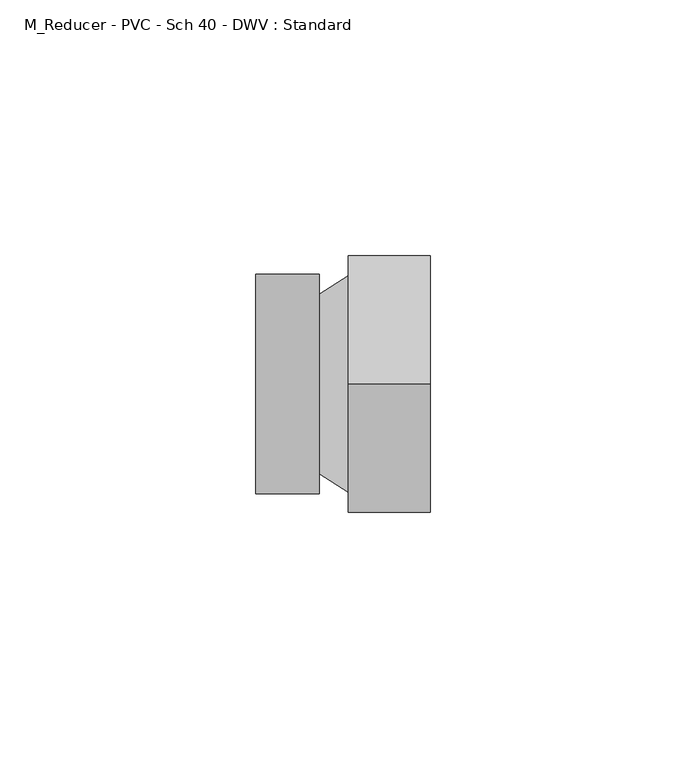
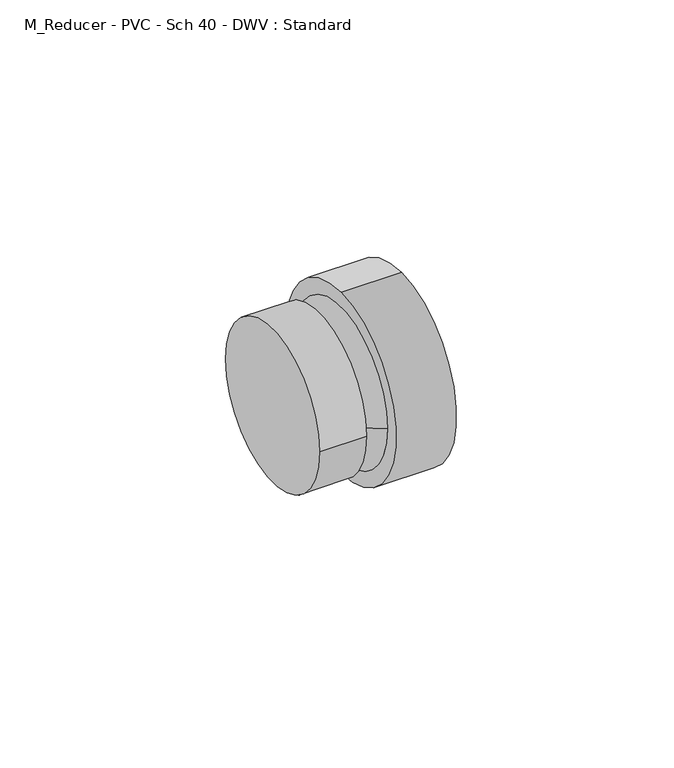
"""IFC4 building model written with IfcOpenShell, lengths in millimetres: pipe fitting geometry, M_Reducer - PVC - Sch 40 - DWV : Standard."""

import ifcopenshell
import ifcopenshell.guid

model = None  # the IFC model being written
_history = None  # IfcOwnerHistory: only IFC2X3 demands one
_inside = {}  # id of a spatial element -> (the spatial element, [elements in it])
_under = {}  # id of a project, library or spatial element -> (it, [spatial elements below it])
_declared = {}  # id of a project -> (the project, [libraries it declares])
_typed = {}  # id of a type object -> (the type object, [elements of that type])
_made_of = {}  # id of a material, layer set ... -> (it, [elements and type objects made of it])


def new_model(schema):
    """Start an empty IFC model of exactly this schema.

    Asked for "IFC4X3", IfcOpenShell would pick the latest addendum, in which some entities
    have other attributes; the version numbers below select the first issue.
    IFC2X3 requires an IfcOwnerHistory on every rooted entity: one is made here for all.
    """
    global model, _history
    if schema == "IFC4X3":
        model = ifcopenshell.file(schema_version=(4, 3, 0, 0))
    else:
        model = ifcopenshell.file(schema=schema)
    _inside.clear()
    _under.clear()
    _declared.clear()
    _typed.clear()
    _made_of.clear()
    _history = None
    if model.schema == "IFC2X3":
        org = make("IfcOrganization", Name="unknown")
        user = make(
            "IfcPersonAndOrganization",
            ThePerson=make("IfcPerson", FamilyName="unknown"),
            TheOrganization=org,
        )
        app = make(
            "IfcApplication",
            ApplicationDeveloper=org,
            Version="unknown",
            ApplicationFullName="unknown",
            ApplicationIdentifier="unknown",
        )
        _history = make(
            "IfcOwnerHistory",
            OwningUser=user,
            OwningApplication=app,
            ChangeAction="ADDED",
            CreationDate=0,
        )
    return model


def make(cls, **values):
    """One entity of the class cls with the attributes given. An attribute that is None is left unset."""
    return model.create_entity(
        cls, **{name: value for name, value in values.items() if value is not None}
    )


def rooted(cls, **values):
    """An entity with a GlobalId (a new one), such as an element, a storey or a relation."""
    return make(cls, GlobalId=ifcopenshell.guid.new(), OwnerHistory=_history, **values)


def si_unit(unit_type, name, prefix=None):
    """IfcSIUnit, for example si_unit("LENGTHUNIT", "METRE", prefix="MILLI")."""
    return make("IfcSIUnit", UnitType=unit_type, Prefix=prefix, Name=name)


def assignment(units):
    """IfcUnitAssignment: the units of a project."""
    return None if units is None else make("IfcUnitAssignment", Units=units)


def point(xyz):
    """IfcCartesianPoint."""
    return None if xyz is None else make("IfcCartesianPoint", Coordinates=xyz)


def direction(xyz):
    """IfcDirection."""
    return None if xyz is None else make("IfcDirection", DirectionRatios=xyz)


def frame(location, z_axis=None, x_axis=None):
    """IfcAxis2Placement3D, a coordinate frame: its origin and axes. An axis left out is left unset."""
    return make(
        "IfcAxis2Placement3D",
        Location=point(location),
        Axis=direction(z_axis),
        RefDirection=direction(x_axis),
    )


def origin():
    """The frame at (0, 0, 0) with its axes left unset."""
    return frame((0.0, 0.0, 0.0))


def place(relative_to, where):
    """IfcLocalPlacement: puts the frame where relative to a parent placement (None: the world)."""
    return make(
        "IfcLocalPlacement", PlacementRelTo=relative_to, RelativePlacement=where
    )


def context(
    kind, dimensions, precision=None, world=None, true_north=None, identifier=None
):
    """IfcGeometricRepresentationContext, for example the 3D "Model" context."""
    return make(
        "IfcGeometricRepresentationContext",
        ContextIdentifier=identifier,
        ContextType=kind,
        CoordinateSpaceDimension=dimensions,
        Precision=precision,
        WorldCoordinateSystem=world,
        TrueNorth=true_north,
    )


def project(units=None, contexts=None):
    """IfcProject with its units and contexts."""
    return rooted(
        "IfcProject",
        Name="project",
        RepresentationContexts=contexts,
        UnitsInContext=assignment(units),
    )


def spatial(cls, under=None, at=None, **own):
    """A site, building, storey or space (cls), placed at a placement, below another one or the project."""
    s = rooted(cls, ObjectPlacement=at, **own)
    if under is not None:
        _under.setdefault(under.id(), (under, []))[1].append(s)
    return s


def polyline(points):
    """IfcPolyline through the points."""
    return make("IfcPolyline", Points=[point(p) for p in points])


def circle_curve(where, radius):
    """IfcCircle in the frame where."""
    return make("IfcCircle", Position=where, Radius=radius)


def shape(context_of_items, identifier, shape_type, items):
    """IfcShapeRepresentation: the items that make up one representation, for example the "Body"."""
    return make(
        "IfcShapeRepresentation",
        ContextOfItems=context_of_items,
        RepresentationIdentifier=identifier,
        RepresentationType=shape_type,
        Items=items,
    )


def source(mapping_origin, context_of_items, identifier, shape_type, items):
    """IfcRepresentationMap: a shape defined once, which mapped items show again and again."""
    return make(
        "IfcRepresentationMap",
        MappingOrigin=mapping_origin,
        MappedRepresentation=shape(context_of_items, identifier, shape_type, items),
    )


def transform(
    local_origin,
    x_axis=None,
    y_axis=None,
    z_axis=None,
    scale=None,
    scale2=None,
    scale3=None,
    uniform=True,
):
    """IfcCartesianTransformationOperator3D, or its non-uniform kind. x_axis, y_axis, z_axis: its Axis1, 2, 3."""
    if uniform:
        return make(
            "IfcCartesianTransformationOperator3D",
            Axis1=direction(x_axis),
            Axis2=direction(y_axis),
            LocalOrigin=point(local_origin),
            Scale=scale,
            Axis3=direction(z_axis),
        )
    return make(
        "IfcCartesianTransformationOperator3DnonUniform",
        Axis1=direction(x_axis),
        Axis2=direction(y_axis),
        LocalOrigin=point(local_origin),
        Scale=scale,
        Axis3=direction(z_axis),
        Scale2=scale2,
        Scale3=scale3,
    )


def mapped(mapping_source, mapping_target):
    """IfcMappedItem: shows the shape of a source again, moved by a transform."""
    return make(
        "IfcMappedItem", MappingSource=mapping_source, MappingTarget=mapping_target
    )


def made_of(thing, what):
    """Note that an element or type object is made of a material, layer set ...; save() writes the relation."""
    if what is not None:
        _made_of.setdefault(what.id(), (what, []))[1].append(thing)
    return thing


def element(
    cls,
    number,
    at=None,
    inside=None,
    cuts=None,
    type_object=None,
    material=None,
    context=None,
    identifier="Body",
    shape_type=None,
    held_by="IfcProductDefinitionShape",
    body=None,
    shapes=None,
    **own,
):
    """One element of the class cls, such as IfcWall. Its Tag is "e" and its number.

    at: its placement. inside: the storey or other place that contains it. cuts: it is an
    opening in that element (IfcRelVoidsElement). A single representation is given by context,
    identifier, shape_type and body (its items); several are given by shapes. held_by: the class
    of the entity that holds the representations. save() writes the other relations.
    """
    e = rooted(cls, Tag="e%d" % number, ObjectPlacement=at, **own)
    if body is not None:
        shapes = [shape(context, identifier, shape_type, body)]
    if shapes is not None:
        e.Representation = make(held_by, Representations=shapes)
    if inside is not None:
        _inside.setdefault(inside.id(), (inside, []))[1].append(e)
    if cuts is not None:
        rooted(
            "IfcRelVoidsElement", RelatingBuildingElement=cuts, RelatedOpeningElement=e
        )
    if type_object is not None:
        _typed.setdefault(type_object.id(), (type_object, []))[1].append(e)
    return made_of(e, material)


def aggregate(whole, parts):
    """IfcRelAggregates: a whole, such as a stair, and the parts it consists of."""
    return rooted("IfcRelAggregates", RelatingObject=whole, RelatedObjects=parts)


def save(model, path):
    """Write the relations noted so far, then the file.

    IfcRelAggregates (storeys below a building ...), IfcRelContainedInSpatialStructure (elements
    in a storey), IfcRelDefinesByType, IfcRelAssociatesMaterial and IfcRelDeclares: one each for
    every whole, place, type object, material and project.
    """
    for whole, parts in _under.values():
        aggregate(whole, parts)
    for where, things in _inside.values():
        rooted(
            "IfcRelContainedInSpatialStructure",
            RelatedElements=things,
            RelatingStructure=where,
        )
    for kind, things in _typed.values():
        rooted("IfcRelDefinesByType", RelatedObjects=things, RelatingType=kind)
    for what, things in _made_of.values():
        rooted("IfcRelAssociatesMaterial", RelatedObjects=things, RelatingMaterial=what)
    for by, libraries in _declared.values():
        rooted("IfcRelDeclares", RelatingContext=by, RelatedDefinitions=libraries)
    model.write(path)


def plane_surface(at):
    """IfcPlane: the flat surface through the origin of the frame at, square to its z axis."""
    return make("IfcPlane", Position=at)


def cylinder_surface(at, radius):
    """IfcCylindricalSurface: all points at the distance radius from the z axis of the frame at."""
    return make("IfcCylindricalSurface", Position=at, Radius=radius)


def revolved_surface(curve, axis_point, axis_direction):
    """IfcSurfaceOfRevolution: the curve turned about the line through axis_point along axis_direction."""
    return make(
        "IfcSurfaceOfRevolution",
        SweptCurve=make("IfcArbitraryOpenProfileDef", ProfileType="CURVE", Curve=curve),
        AxisPosition=make("IfcAxis1Placement", Location=point(axis_point), Axis=direction(axis_direction)),
    )


def advanced_brep(points, edges, surfaces, faces):
    """IfcAdvancedBrep: a solid bounded by faces that lie on surfaces and meet in shared edges.

    An edge is (start, end): straight between two places in points (the first is 0);
    or (start, end, curve); or (start, end, curve, False) where it runs against its curve.
    A face is (place in surfaces, loops), or (place, loops, False) where it looks against
    its surface's normal. A loop lists edges by number (the first is 1), with a minus sign
    where the edge is run from its end to its start. The first loop is the outer one.
    """
    corners = [point(p) for p in points]
    vertices = [make("IfcVertexPoint", VertexGeometry=c) for c in corners]
    made = []
    for start, end, *more in edges:
        made.append(
            make(
                "IfcEdgeCurve",
                EdgeStart=vertices[start],
                EdgeEnd=vertices[end],
                EdgeGeometry=more[0] if more else make("IfcPolyline", Points=[corners[start], corners[end]]),
                SameSense=more[1] if len(more) > 1 else True,
            )
        )
    hull = []
    for where, loops, *sense in faces:
        bounds = []
        for j, loop in enumerate(loops):
            ring = [make("IfcOrientedEdge", EdgeElement=made[abs(k) - 1], Orientation=k > 0) for k in loop]
            bounds.append(
                make(
                    "IfcFaceOuterBound" if j == 0 else "IfcFaceBound",
                    Bound=make("IfcEdgeLoop", EdgeList=ring),
                    Orientation=True,
                )
            )
        hull.append(make("IfcAdvancedFace", Bounds=bounds, FaceSurface=surfaces[where], SameSense=sense[0] if sense else True))
    return make("IfcAdvancedBrep", Outer=make("IfcClosedShell", CfsFaces=hull))


def m_reducer_pvc_sch_40_dwv_standard_3fc35695(model_context):
    return source(origin(), model_context, "Body", "AdvancedBrep", [
        advanced_brep(
        [(0.0, -21.4871094, 0.0), (0.0, 21.4871094, 0.0), (12.5, -21.4871094, 0.0), (12.5, 21.4871094, 0.0), (12.5, 17.5640625, 0.0), (12.5, -17.5640625, 0.0), (18.1460938, 21.2040625, 0.0), (18.1460937, -21.2040625, 0.0), (18.1460938, 0.0, 25.2671094), (18.1460938, 0.0, -25.2671094), (34.1460938, 0.0, 25.2671094), (34.1460938, 0.0, -25.2671094)],
        [
            (0, 1, circle_curve(frame((0.0, 0.0, 0.0), z_axis=(-1.0, 0.0, 0.0), x_axis=(0.0, 1.0, 0.0)), 21.4871094)),
            (1, 0, circle_curve(frame((0.0, 0.0, 0.0), z_axis=(-1.0, 0.0, 0.0), x_axis=(0.0, 1.0, 0.0)), 21.4871094)),
            (2, 3, circle_curve(frame((12.5, 0.0, 0.0), z_axis=(1.0, 0.0, 0.0), x_axis=(0.0, 1.0, 0.0)), 21.4871094)),
            (3, 2, circle_curve(frame((12.5, 0.0, 0.0), z_axis=(1.0, 0.0, 0.0), x_axis=(0.0, 1.0, 0.0)), 21.4871094)),
            (4, 5, circle_curve(frame((12.5, 0.0, 0.0), z_axis=(-1.0, 1.0428608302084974e-12, 0.0), x_axis=(-1.042916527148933e-12, -1.0, 0.0)), 17.5640625)),
            (5, 4, circle_curve(frame((12.5, 0.0, 0.0), z_axis=(-1.0, 1.0428608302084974e-12, 0.0), x_axis=(1.0429165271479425e-12, 1.0, 0.0)), 17.5640625)),
            (0, 2),
            (3, 1),
            (4, 6),
            (6, 7, circle_curve(frame((18.1460938, 0.0, 0.0), z_axis=(-1.0, 1.0428608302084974e-12, 0.0), x_axis=(-1.042916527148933e-12, -1.0, 0.0)), 21.2040625)),
            (7, 5),
            (7, 6, circle_curve(frame((18.1460938, 0.0, 0.0), z_axis=(-1.0, 1.0428608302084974e-12, 0.0), x_axis=(1.0429165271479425e-12, 1.0, 0.0)), 21.2040625)),
            (8, 9, circle_curve(frame((18.1460938, 0.0, 0.0), z_axis=(-1.0, 0.0, 0.0), x_axis=(0.0, 0.0, -1.0)), 25.2671094)),
            (9, 8, circle_curve(frame((18.1460938, 0.0, 0.0), z_axis=(-1.0, 0.0, 0.0), x_axis=(0.0, 0.0, -1.0)), 25.2671094)),
            (10, 11, circle_curve(frame((34.1460938, 0.0, 0.0), z_axis=(1.0, 0.0, 0.0), x_axis=(0.0, 0.0, -1.0)), 25.2671094)),
            (11, 10, circle_curve(frame((34.1460938, 0.0, 0.0), z_axis=(1.0, 0.0, 0.0), x_axis=(0.0, 0.0, -1.0)), 25.2671094)),
            (8, 10),
            (11, 9),
        ],
        [
            plane_surface(frame((0.0, 0.0, 0.0), z_axis=(-1.0, 0.0, 0.0), x_axis=(0.0, 0.0, 1.0))),
            plane_surface(frame((12.5, 0.0, 0.0), z_axis=(1.0, 0.0, 0.0), x_axis=(0.0, 0.0, 1.0))),
            cylinder_surface(frame((0.0, 0.0, 0.0), z_axis=(-1.0, 0.0, 0.0), x_axis=(0.0, 1.0, 0.0)), 21.4871094),
            revolved_surface(polyline([(12.499999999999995, 17.564062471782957, 0.0), (18.146093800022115, 21.204062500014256, 0.0)]), (-14.7440504, 0.0, 0.0), (1.0, -1.0428608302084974e-12, 0.0)),
            plane_surface(frame((18.1460938, 0.0, 0.0), z_axis=(-1.0, 0.0, 0.0), x_axis=(0.0, 1.0, 0.0))),
            plane_surface(frame((34.1460938, 0.0, 0.0), z_axis=(1.0, 0.0, 0.0), x_axis=(0.0, 1.0, 0.0))),
            cylinder_surface(frame((18.1460938, 0.0, 0.0), z_axis=(-1.0, 0.0, 0.0), x_axis=(0.0, 0.0, -1.0)), 25.2671094),
        ],
        [
            (0, [[1, 2]]),
            (1, [[3, 4], [5, 6]]),
            (2, [[-1, 7, -4, 8]]),
            (2, [[-2, -8, -3, -7]]),
            (3, [[9, 10, 11, -5]]),
            (3, [[-9, -6, -11, 12]]),
            (4, [[13, 14], [-10, -12]]),
            (5, [[15, 16]]),
            (6, [[-13, 17, -16, 18]]),
            (6, [[-14, -18, -15, -17]]),
        ],
    ),
    ])


if __name__ == "__main__":
    model = new_model("IFC4")
    model_context = context("Model", 3, world=origin())
    ifc_project = project(units=[si_unit("LENGTHUNIT", "METRE", prefix="MILLI")], contexts=[model_context])
    site = spatial("IfcSite", under=ifc_project)
    building = spatial("IfcBuilding", under=site)
    placement = place(None, origin())
    m_reducer_pvc_sch_40_dwv_standard_shape = m_reducer_pvc_sch_40_dwv_standard_3fc35695(model_context)
    element("IfcPipeFitting", 1, ObjectType="M_Reducer - PVC - Sch 40 - DWV : Standard", at=placement, inside=building, context=model_context, shape_type="MappedRepresentation", body=[
        mapped(m_reducer_pvc_sch_40_dwv_standard_shape, transform((0.0, 0.0, 0.0), x_axis=(1.0, 0.0, 0.0), y_axis=(0.0, 1.0, 0.0), z_axis=(0.0, 0.0, 1.0))),
    ])
    save(model, "model.ifc")
